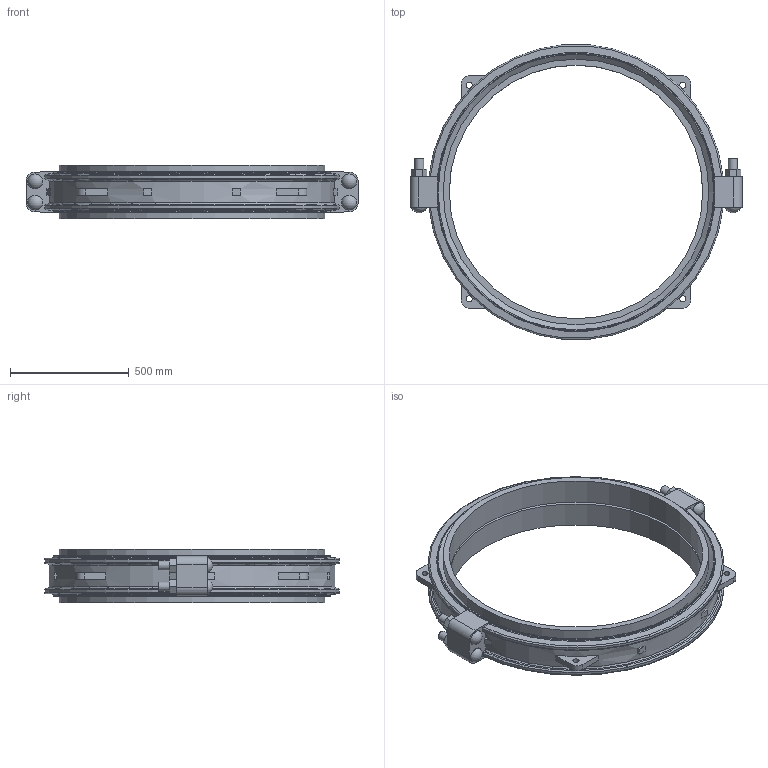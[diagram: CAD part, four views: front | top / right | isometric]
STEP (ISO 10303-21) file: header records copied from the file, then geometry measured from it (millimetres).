
FILE_DESCRIPTION(/* description */ ('VIC COUPLING FLEX STYLE W77 AGS VIC-RING ','CAx-IF Rec.Pracs.---Representation and Presentation of Product Manufacturing Information (PMI)---4.0---2014-10-13'),/* implementation_level */ '2;1');
FILE_NAME(/* name */ 'C:\Users\Vjadhav\AppData\Roaming\Autodesk\ApplicationPlugins\Victaulic.Temp\A52\Victaulic_Vic-Ring_Coupling Flexible_Style W77 (AGR)_44 (1100).stp',/* time_stamp */ '2021-12-20T11:06:10+06:00',/* author */ ('Vjadhav'),/* organization */ ('Victaulic'),/* preprocessor_version */ 'ST-DEVELOPER v17.2',/* originating_system */ 'Autodesk Inventor 2019',/* authorisation */ '');
FILE_SCHEMA (('AP242_MANAGED_MODEL_BASED_3D_ENGINEERING_MIM_LF { 1 0 10303 442 1 1 4 }'));
Length unit declared in the file: inch
Products named in the file (3): W77 VR-44.0; W77 VR-44.0_1; W77 VR-44.0_2
Assembly tree (3 placements, depth 2):
  W77 VR-44.0
    W77 VR-44.0_1
    W77 VR-44.0_2  x2
Bounding box: 1397 x 1239.96 x 226.06 mm (x, y, z)
Volume: 52984913.3 mm3; surface area: 3942513.8 mm2
Topology: 3 solids, 7 shells, 187 faces, 491 edges, 340 vertices
Faces by surface type: plane 110, cylinder 47, torus 16, cone 10, sphere 4
Full cylindrical faces by diameter (mm): 25.4 x4, 38.1 x8, 63.5 x4, 1066.8 x2, 1098.55 x1, 1117.6 x4, 1168.4 x2
Entity records: 6491 total; most frequent: CARTESIAN_POINT 1514, DIRECTION 987, ORIENTED_EDGE 962, EDGE_CURVE 481, AXIS2_PLACEMENT_3D 365, VERTEX_POINT 332, LINE 257, VECTOR 257
